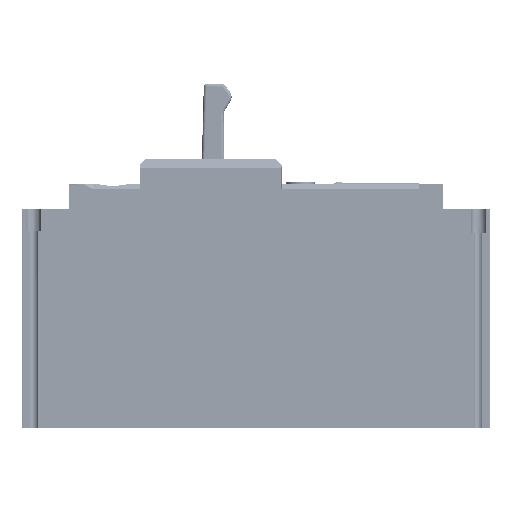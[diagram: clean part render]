
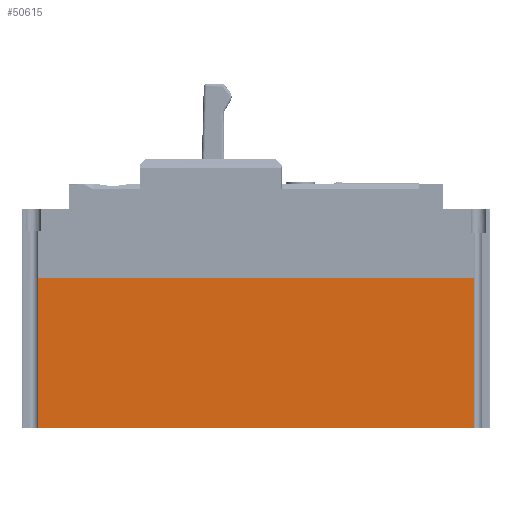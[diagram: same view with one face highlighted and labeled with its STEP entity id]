
A CAD part, left-side view. The second image highlights one B-rep face of the part: STEP entity #50615.
In plain terms, the highlighted planar face has unit normal (-1, 0, 0).
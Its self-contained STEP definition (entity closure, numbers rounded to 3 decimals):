
#18057 = LINE ( 'NONE', #123673, #613503 ) ;
#19031 = VERTEX_POINT ( 'NONE', #276966 ) ;
#20449 = PLANE ( 'NONE',  #493908 ) ;
#39043 = CARTESIAN_POINT ( 'NONE',  ( 4.57, -98.655, 104.216 ) ) ;
#49633 = ORIENTED_EDGE ( 'NONE', *, *, #531194, .F. ) ;
#50615 = ADVANCED_FACE ( 'NONE', ( #623589 ), #20449, .T. ) ;
#54300 = CARTESIAN_POINT ( 'NONE',  ( 4.57, -98.655, 104.216 ) ) ;
#62327 = CARTESIAN_POINT ( 'NONE',  ( 4.57, -98.655, 157.216 ) ) ;
#92404 = ORIENTED_EDGE ( 'NONE', *, *, #143268, .F. ) ;
#123673 = CARTESIAN_POINT ( 'NONE',  ( 4.57, 54.845, 104.216 ) ) ;
#143268 = EDGE_CURVE ( 'NONE', #19031, #485794, #630533, .T. ) ;
#144835 = DIRECTION ( 'NONE',  ( 0., 1., 0. ) ) ;
#177949 = LINE ( 'NONE', #39043, #465166 ) ;
#194163 = LINE ( 'NONE', #395115, #255501 ) ;
#227905 = EDGE_LOOP ( 'NONE', ( #479466, #283124, #92404, #49633 ) ) ;
#240397 = DIRECTION ( 'NONE',  ( 0., 0., 1. ) ) ;
#252542 = DIRECTION ( 'NONE',  ( 0., 0., 1. ) ) ;
#255501 = VECTOR ( 'NONE', #144835, 1000. ) ;
#271999 = DIRECTION ( 'NONE',  ( 0., 0., 1. ) ) ;
#276966 = CARTESIAN_POINT ( 'NONE',  ( 4.57, 54.845, 157.216 ) ) ;
#283124 = ORIENTED_EDGE ( 'NONE', *, *, #413736, .T. ) ;
#382538 = VERTEX_POINT ( 'NONE', #410954 ) ;
#395115 = CARTESIAN_POINT ( 'NONE',  ( 4.57, -104.405, 104.216 ) ) ;
#410954 = CARTESIAN_POINT ( 'NONE',  ( 4.57, 54.845, 104.216 ) ) ;
#413736 = EDGE_CURVE ( 'NONE', #570844, #485794, #177949, .T. ) ;
#436031 = CARTESIAN_POINT ( 'NONE',  ( 4.57, -104.405, 157.216 ) ) ;
#441671 = VECTOR ( 'NONE', #528297, 1000. ) ;
#465166 = VECTOR ( 'NONE', #240397, 1000. ) ;
#479466 = ORIENTED_EDGE ( 'NONE', *, *, #547890, .F. ) ;
#485794 = VERTEX_POINT ( 'NONE', #62327 ) ;
#493908 = AXIS2_PLACEMENT_3D ( 'NONE', #502773, #555477, #252542 ) ;
#502773 = CARTESIAN_POINT ( 'NONE',  ( 4.57, -104.405, 157.216 ) ) ;
#528297 = DIRECTION ( 'NONE',  ( 0., -1., 0. ) ) ;
#531194 = EDGE_CURVE ( 'NONE', #382538, #19031, #18057, .T. ) ;
#547890 = EDGE_CURVE ( 'NONE', #570844, #382538, #194163, .T. ) ;
#555477 = DIRECTION ( 'NONE',  ( -1., 0., 0. ) ) ;
#570844 = VERTEX_POINT ( 'NONE', #54300 ) ;
#613503 = VECTOR ( 'NONE', #271999, 1000. ) ;
#623589 = FACE_OUTER_BOUND ( 'NONE', #227905, .T. ) ;
#630533 = LINE ( 'NONE', #436031, #441671 ) ;
